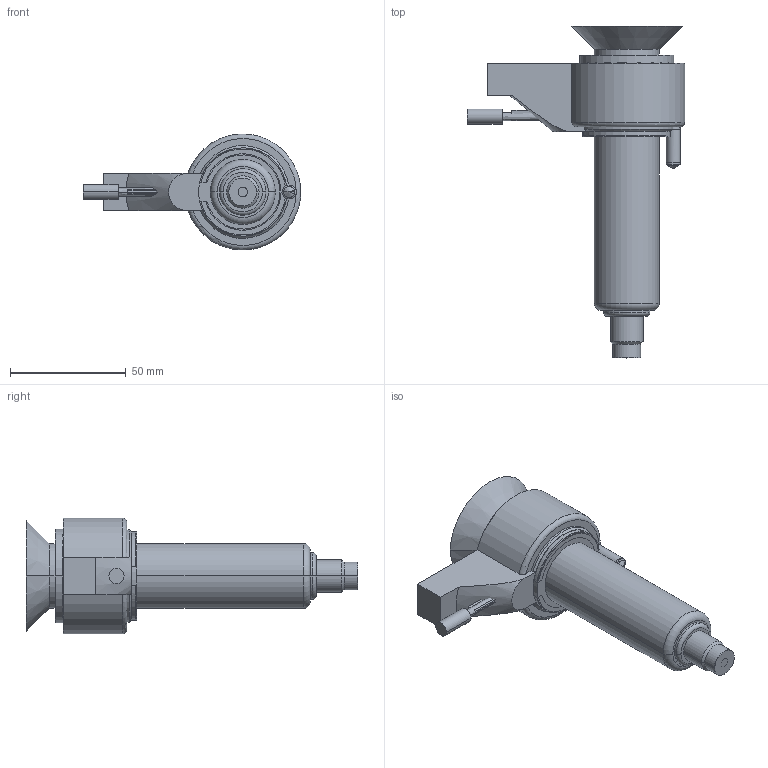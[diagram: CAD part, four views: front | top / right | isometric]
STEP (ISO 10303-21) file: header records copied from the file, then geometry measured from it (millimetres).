
FILE_DESCRIPTION((''),'2;1');
FILE_NAME('SV250014-2Z-TYPE3_ASM','2013-05-06T',('benoit'),(''),'PRO/ENGINEER BY PARAMETRIC TECHNOLOGY CORPORATION, 2007450','PRO/ENGINEER BY PARAMETRIC TECHNOLOGY CORPORATION, 2007450','');
FILE_SCHEMA(('CONFIG_CONTROL_DESIGN'));
Length unit declared in the file: millimetre
Products named in the file (13): SV250014-2Z; BF250003; 18X1_2E; 38X1_75E; BF03821; CAPOT-BF03821; BF03821_ASM; GOUPILLE-6-16; TP250502; TP250703; MA010025; SV6-2Z-POCHE-115-T3; SV250014-2Z-TYPE3_ASM
Assembly tree (13 placements, depth 3):
  SV250014-2Z-TYPE3_ASM
    SV250014-2Z
    BF250003
    18X1_2E
    38X1_75E  x2
    BF03821_ASM
      BF03821
      CAPOT-BF03821
    GOUPILLE-6-16
    TP250502
    TP250703
    MA010025
    SV6-2Z-POCHE-115-T3
Bounding box: 93.61 x 143.07 x 49.94 mm (x, y, z)
Volume: 207804.4 mm3; surface area: 77931.2 mm2
Topology: 14 solids, 14 shells, 349 faces, 837 edges, 526 vertices
Faces by surface type: cylinder 145, plane 97, cone 51, bspline 35, torus 15, sphere 6
Entity records: 19070 total; most frequent: CARTESIAN_POINT 11119, DIRECTION 1669, ORIENTED_EDGE 1578, EDGE_CURVE 789, AXIS2_PLACEMENT_3D 677, VERTEX_POINT 498, EDGE_LOOP 367, CIRCLE 351
